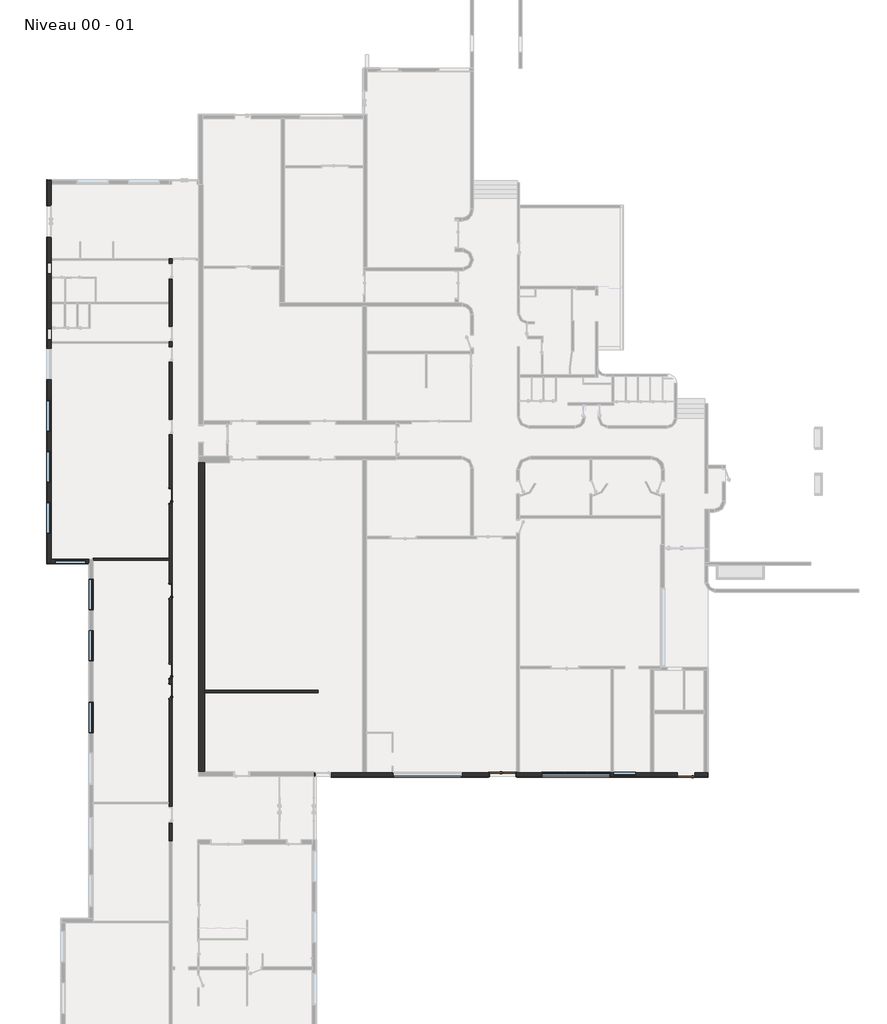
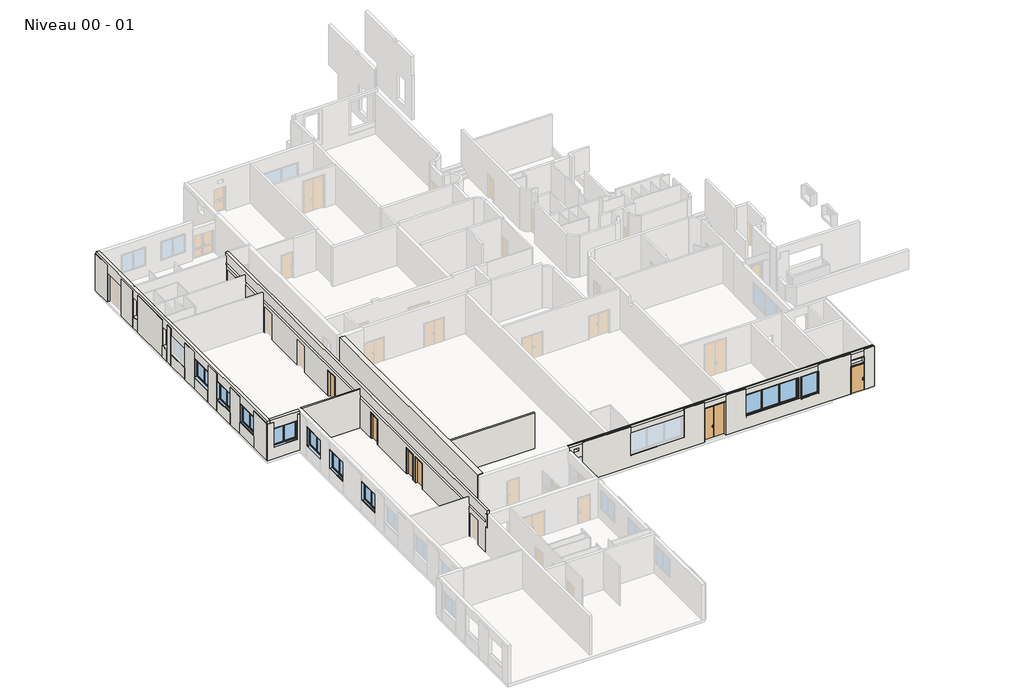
# One storey, part 3 of 8: 10 walls, 9 windows, 6 doors.
"""IFC4 building model written with IfcOpenShell, lengths in millimetres."""

from ifc_helpers import new_model, si_unit, frame, origin, place, context, project, spatial, polyline, outline, extrude, faceted_brep, transform, mapped, element, save
from components import door_6dd767ba, door_82d9676e, double_r_1_73m_x_2_9m_3b49b8a3, window_1_9000_x_145cm_2e8b5485, window_190x440_032361bc, window_200_x_160_3bbd1c25, window_200_x_160_064ba838

model = new_model("IFC4")

# Units and contexts
model_context = context("Model", 3, world=origin())
ifc_project = project(units=[si_unit("LENGTHUNIT", "METRE", prefix="MILLI")], contexts=[model_context])

# Site, building, storey
site = spatial("IfcSite", under=ifc_project)
building = spatial("IfcBuilding", under=site)
storey = spatial("IfcBuildingStorey", under=building, Name="Niveau 00 - 01", Elevation=253.3082742)

# Doors
placement = place(None, origin())
door_shape = door_6dd767ba(model_context)
element("IfcDoor", 1, ObjectType="@_Int. Simple : @_PP (1.03m x 2.30m)", at=placement, inside=storey, context=model_context, shape_type="MappedRepresentation", body=[
    mapped(door_shape, transform((-5181.0863322, -34529.054307, 253.3082742), x_axis=(-1.0, 0.0, 0.0), y_axis=(0.0, -1.0, 0.0), z_axis=(0.0, 0.0, 1.0))),
])
door_2_shape = door_82d9676e(model_context)
element("IfcDoor", 2, ObjectType="@_Int. Simple : @_PP (0.93m x 2.25)", at=placement, inside=storey, context=model_context, shape_type="MappedRepresentation", body=[
    mapped(door_2_shape, transform((-38143.9891749, -16531.6974193, 253.3082742), x_axis=(0.0, 1.0, 0.0), y_axis=(-1.0, 0.0, 0.0), z_axis=(0.0, 0.0, 1.0))),
])
element("IfcDoor", 3, ObjectType="@_Int. Simple : @_PP (0.93m x 2.25)", at=placement, inside=storey, context=model_context, shape_type="MappedRepresentation", body=[
    mapped(door_2_shape, transform((-38143.9891749, -22631.6974193, 253.3082742), x_axis=(0.0, 1.0, 0.0), y_axis=(-1.0, 0.0, 0.0), z_axis=(0.0, 0.0, 1.0))),
])
element("IfcDoor", 4, ObjectType="@_Int. Simple : @_PP (0.93m x 2.25)", at=placement, inside=storey, context=model_context, shape_type="MappedRepresentation", body=[
    mapped(door_2_shape, transform((-38143.9891749, -29031.6974193, 253.3082742), x_axis=(0.0, 1.0, 0.0), y_axis=(-1.0, 0.0, 0.0), z_axis=(0.0, 0.0, 1.0))),
])
element("IfcDoor", 5, ObjectType="@_Int. Simple : @_PP (0.93m x 2.25)", at=placement, inside=storey, context=model_context, shape_type="MappedRepresentation", body=[
    mapped(door_2_shape, transform((-38143.9891749, -27731.6974193, 253.3082742), x_axis=(0.0, 1.0, 0.0), y_axis=(-1.0, 0.0, 0.0), z_axis=(0.0, 0.0, 1.0))),
])
double_r_1_73m_x_2_9m_shape = double_r_1_73m_x_2_9m_3b49b8a3(model_context)
element("IfcDoor", 6, ObjectType="Double (R) : 1.73m x 2.9m", at=placement, inside=storey, context=model_context, shape_type="MappedRepresentation", body=[
    mapped(double_r_1_73m_x_2_9m_shape, transform((-16892.6697002, -34384.054307, 253.3082742), x_axis=(-1.0, 0.0, 0.0), y_axis=(0.0, -1.0, 0.0), z_axis=(0.0, 0.0, 1.0))),
])

# Walls
element("IfcWall", 7, ObjectType="@_Générique - Int. 100 mm", at=placement, inside=storey, context=model_context, shape_type="Brep", body=[
    faceted_brep([(-43092.9002047, -20666.6974195, 253.3082742), (-38243.9891749, -20666.697421, 253.3082742), (-38243.9891749, -20666.697421, 3653.3082742), (-43092.9002047, -20666.6974195, 3653.3082742), (-43092.9002047, -20566.6974195, 253.3082742), (-43092.9002047, -20566.6974195, 3653.3082742), (-38243.9891749, -20566.697421, 3653.3082742), (-38243.9891749, -20566.697421, 253.3082742), (-43092.9002047, -20616.6974201, 253.3082742)], [[[0, 1, 2, 3]], [[4, 5, 6, 7]], [[1, 0, 8, 4, 7]], [[2, 1, 7, 6]], [[3, 2, 6, 5]], [[0, 3, 5, 4, 8]]]),
])
element("IfcWall", 8, ObjectType="@_Générique - Int. 150 mm", at=placement, inside=storey, context=model_context, shape_type="SweptSolid", body=[
    extrude(outline(polyline([(-28702.0667169, -29150.292702), (-35943.9891739, -29150.292702), (-35943.9891739, -29000.292702), (-28702.0667169, -29000.292702), (-28702.0667169, -29150.292702)])), frame((0.0, 0.0, 253.3082742), z_axis=(0.0, 0.0, 1.0), x_axis=(1.0, 0.0, 0.0)), (0.0, 0.0, 1.0), 3100.0),
])
element("IfcWall", 9, ObjectType="Mur EXE 40- Hach", at=placement, inside=storey, context=model_context, shape_type="Brep", body=[
    faceted_brep([(-46079.2374821, -18954.6974201, 1224.3082742), (-46079.2374821, -16970.5552845, 1224.3082742), (-46079.2374821, -16970.5552845, 253.3082742), (-46079.2374821, -18954.6974201, 253.3082742), (-46039.2374821, -18954.6974201, 1224.3082742), (-46039.2374821, -18954.6974201, 253.3082742), (-46039.2374821, -16970.5552845, 253.3082742), (-46039.2374821, -16970.5552845, 1224.3082742)], [[[0, 1, 2, 3]], [[4, 5, 6, 7]], [[1, 0, 4, 7]], [[2, 1, 7, 6]], [[3, 2, 6, 5]], [[0, 3, 5, 4]]]),
    faceted_brep([(-46079.2374821, -18969.6974201, 3465.1810381), (-46079.2374821, -18969.6974201, 1224.3082742), (-46079.2374821, -18969.6974201, 253.3082742), (-46079.2374821, -20866.6974201, 253.3082742), (-46079.2374821, -20866.6974201, 3421.8727639), (-46079.2374821, -20866.6974201, 3465.1810381), (-46039.2374821, -18969.6974201, 3465.1810381), (-46039.2374821, -20866.6974201, 3465.1810381), (-46039.2374821, -20866.6974201, 253.3082742), (-46039.2374821, -18969.6974201, 253.3082742), (-46039.2374821, -18969.6974201, 1224.3082742)], [[[0, 1, 2, 3, 4, 5]], [[6, 7, 8, 9, 10]], [[1, 0, 6, 10]], [[3, 2, 9, 8]], [[2, 1, 10, 9]], [[0, 5, 7, 6]], [[5, 4, 3, 8, 7]]]),
    faceted_brep([(-46079.2374821, -16955.5552845, 1224.3082742), (-46079.2374821, -16955.5552845, 3465.1810381), (-46079.2374821, -15648.3863777, 3465.1810381), (-46079.2374821, -15648.3863777, 1224.3082742), (-46079.2374821, -15648.3863777, 253.3082742), (-46079.2374821, -16955.5552845, 253.3082742), (-46039.2374821, -16955.5552845, 1224.3082742), (-46039.2374821, -16955.5552845, 253.3082742), (-46039.2374821, -15648.3863777, 253.3082742), (-46039.2374821, -15648.3863777, 1224.3082742), (-46039.2374821, -15648.3863777, 3465.1810381), (-46039.2374821, -16955.5552845, 3465.1810381)], [[[0, 1, 2, 3, 4, 5]], [[6, 7, 8, 9, 10, 11]], [[3, 2, 10, 9]], [[1, 0, 6, 11]], [[5, 4, 8, 7]], [[2, 1, 11, 10]], [[0, 5, 7, 6]], [[4, 3, 9, 8]]]),
    faceted_brep([(-46079.2374821, -9134.7253897, 3421.8727639), (-46079.2374821, -9134.7253897, 1224.3082742), (-46079.2374821, -9134.7253897, 253.3082742), (-46079.2374821, -10433.745471, 253.3082742), (-46079.2374821, -10433.745471, 1224.3082742), (-46079.2374821, -10433.745471, 3421.8727639), (-46039.2374821, -9134.7253897, 3421.8727639), (-46039.2374821, -10433.745471, 3421.8727639), (-46039.2374821, -10433.745471, 1224.3082742), (-46039.2374821, -10433.745471, 253.3082742), (-46039.2374821, -9134.7253897, 253.3082742), (-46039.2374821, -9134.7253897, 1224.3082742)], [[[0, 1, 2, 3, 4, 5]], [[6, 7, 8, 9, 10, 11]], [[1, 0, 6, 11]], [[3, 2, 10, 9]], [[0, 5, 7, 6]], [[5, 4, 8, 7]], [[4, 3, 9, 8]], [[2, 1, 11, 10]]]),
    faceted_brep([(-46079.2374821, -13693.7253897, 1224.3082742), (-46079.2374821, -13693.7253897, 3465.1810381), (-46079.2374821, -12449.7253897, 3465.1810381), (-46079.2374821, -12449.7253897, 1224.3082742), (-46079.2374821, -12449.7253897, 253.3082742), (-46079.2374821, -13693.7253897, 253.3082742), (-46039.2374821, -13693.7253897, 1224.3082742), (-46039.2374821, -13693.7253897, 253.3082742), (-46039.2374821, -12449.7253897, 253.3082742), (-46039.2374821, -12449.7253897, 1224.3082742), (-46039.2374821, -12449.7253897, 3465.1810381), (-46039.2374821, -13693.7253897, 3465.1810381)], [[[0, 1, 2, 3, 4, 5]], [[6, 7, 8, 9, 10, 11]], [[4, 3, 9, 8]], [[1, 0, 6, 11]], [[0, 5, 7, 6]], [[3, 2, 10, 9]], [[2, 1, 11, 10]], [[5, 4, 8, 7]]]),
    faceted_brep([(-46079.2374821, -15633.3863777, 1224.3082742), (-46079.2374821, -13708.7253897, 1224.3082742), (-46079.2374821, -13708.7253897, 253.3082742), (-46079.2374821, -15633.3863777, 253.3082742), (-46039.2374821, -15633.3863777, 1224.3082742), (-46039.2374821, -15633.3863777, 253.3082742), (-46039.2374821, -13708.7253897, 253.3082742), (-46039.2374821, -13708.7253897, 1224.3082742)], [[[0, 1, 2, 3]], [[4, 5, 6, 7]], [[2, 1, 7, 6]], [[1, 0, 4, 7]], [[3, 2, 6, 5]], [[0, 3, 5, 4]]]),
    faceted_brep([(-46079.2374821, -12434.1203008, 1224.3082742), (-46079.2374821, -10449.9982464, 1224.3082742), (-46079.2374821, -10449.9982464, 253.3082742), (-46079.2374821, -12434.1203008, 253.3082742), (-46039.2374821, -12434.1203008, 1224.3082742), (-46039.2374821, -12434.1203008, 253.3082742), (-46039.2374821, -10449.9982464, 253.3082742), (-46039.2374821, -10449.9982464, 1224.3082742)], [[[0, 1, 2, 3]], [[4, 5, 6, 7]], [[0, 3, 5, 4]], [[1, 0, 4, 7]], [[2, 1, 7, 6]], [[3, 2, 6, 5]]]),
    faceted_brep([(-46079.2374821, -9119.1203008, 1224.3082742), (-46079.2374821, -7134.9982464, 1224.3082742), (-46079.2374821, -7134.9982464, 253.3082742), (-46079.2374821, -9119.1203008, 253.3082742), (-46039.2374821, -9119.1203008, 1224.3082742), (-46039.2374821, -9119.1203008, 253.3082742), (-46039.2374821, -7134.9982464, 253.3082742), (-46039.2374821, -7134.9982464, 1224.3082742)], [[[0, 1, 2, 3]], [[4, 5, 6, 7]], [[1, 0, 4, 7]], [[2, 1, 7, 6]], [[3, 2, 6, 5]], [[0, 3, 5, 4]]]),
    faceted_brep([(-46079.2374821, -7118.745471, 1224.3082742), (-46079.2374821, -7118.745471, 3467.1810381), (-46079.2374821, -6580.1579297, 3467.1810381), (-46079.2374821, -6580.1579297, 1226.3082742), (-46079.2374821, -6580.1579297, 253.3082742), (-46079.2374821, -7118.745471, 253.3082742), (-46039.2374821, -7118.745471, 1224.3082742), (-46039.2374821, -7118.745471, 253.3082742), (-46039.2374821, -6580.1579297, 253.3082742), (-46039.2374821, -6580.1579297, 1226.3082742), (-46039.2374821, -6580.1579297, 3467.1810381), (-46039.2374821, -7118.745471, 3467.1810381)], [[[0, 1, 2, 3, 4, 5]], [[6, 7, 8, 9, 10, 11]], [[1, 0, 6, 11]], [[2, 1, 11, 10]], [[3, 2, 10, 9]], [[4, 3, 9, 8]], [[5, 4, 8, 7]], [[0, 5, 7, 6]]]),
    faceted_brep([(-46079.2374821, -6564.5528407, 1226.3082742), (-46079.2374821, -5896.3682864, 1226.3082742), (-46079.2374821, -5896.3682864, 255.3082742), (-46079.2374821, -6564.5528407, 255.3082742), (-46039.2374821, -6564.5528407, 1226.3082742), (-46039.2374821, -6564.5528407, 255.3082742), (-46039.2374821, -5896.3682864, 255.3082742), (-46039.2374821, -5896.3682864, 1226.3082742)], [[[0, 1, 2, 3]], [[4, 5, 6, 7]], [[1, 0, 4, 7]], [[2, 1, 7, 6]], [[3, 2, 6, 5]], [[0, 3, 5, 4]]]),
    faceted_brep([(-46079.2374821, -5880.115511, 1226.3082742), (-46079.2374821, -5880.115511, 3467.1810381), (-46079.2374821, -2363.5592197, 3467.1810381), (-46079.2374821, -2363.5592197, 1226.3082742), (-46079.2374821, -2363.5592197, 253.3082742), (-46079.2374821, -5880.115511, 253.3082742), (-46039.2374821, -5880.115511, 1226.3082742), (-46039.2374821, -5880.115511, 253.3082742), (-46039.2374821, -2363.5592197, 253.3082742), (-46039.2374821, -2363.5592197, 1226.3082742), (-46039.2374821, -2363.5592197, 3467.1810381), (-46039.2374821, -5880.115511, 3467.1810381)], [[[0, 1, 2, 3, 4, 5]], [[6, 7, 8, 9, 10, 11]], [[1, 0, 6, 11]], [[2, 1, 11, 10]], [[3, 2, 10, 9]], [[4, 3, 9, 8]], [[5, 4, 8, 7]], [[0, 5, 7, 6]]]),
    faceted_brep([(-46079.2374821, -2347.9541307, 1226.3082742), (-46079.2374821, -1679.7695763, 1226.3082742), (-46079.2374821, -1679.7695763, 255.3082742), (-46079.2374821, -2347.9541307, 255.3082742), (-46039.2374821, -2347.9541307, 1226.3082742), (-46039.2374821, -2347.9541307, 255.3082742), (-46039.2374821, -1679.7695763, 255.3082742), (-46039.2374821, -1679.7695763, 1226.3082742)], [[[0, 1, 2, 3]], [[4, 5, 6, 7]], [[1, 0, 4, 7]], [[2, 1, 7, 6]], [[3, 2, 6, 5]], [[0, 3, 5, 4]]]),
    faceted_brep([(-46079.2374821, -1663.5168009, 1226.3082742), (-46079.2374821, -1663.5168009, 3467.1810381), (-46079.2374821, -8.1777475, 3467.1810381), (-46079.2374821, -8.1777475, 256.6165485), (-46079.2374821, -1663.5168009, 256.6165485), (-46039.2374821, -1663.5168009, 1226.3082742), (-46039.2374821, -1663.5168009, 256.6165485), (-46039.2374821, -8.1777475, 256.6165485), (-46039.2374821, -8.1777475, 3467.1810381), (-46039.2374821, -1663.5168009, 3467.1810381)], [[[0, 1, 2, 3, 4]], [[5, 6, 7, 8, 9]], [[1, 0, 5, 9]], [[2, 1, 9, 8]], [[3, 2, 8, 7]], [[4, 3, 7, 6]], [[0, 4, 6, 5]]]),
    faceted_brep([(-46079.2374821, 2011.8222525, 3467.1810381), (-46079.2374821, 3674.6445068, 3467.1810381), (-46079.2374821, 3674.6445068, 256.6165485), (-46079.2374821, 2011.8222525, 256.6165485), (-46039.2374821, 2011.8222525, 3467.1810381), (-46039.2374821, 2011.8222525, 256.6165485), (-46039.2374821, 3674.6445068, 256.6165485), (-46039.2374821, 3674.6445068, 3421.8727639), (-46039.2374821, 3674.6445068, 3467.1810381)], [[[0, 1, 2, 3]], [[4, 5, 6, 7, 8]], [[1, 0, 4, 8]], [[2, 1, 8, 7, 6]], [[3, 2, 6, 5]], [[0, 3, 5, 4]]]),
])
element("IfcWall", 10, ObjectType="Mur EXE 40- Hach", at=placement, inside=storey, context=model_context, shape_type="Brep", body=[
    faceted_brep([(-46079.2374821, -20906.6974201, 253.3082742), (-43382.9002047, -20906.6974201, 253.3082742), (-43382.9002047, -20906.6974201, 3421.8727639), (-43533.0688434, -20906.6974201, 3421.8727639), (-43533.0688434, -20906.6974201, 1225.8082742), (-45541.0688434, -20906.6974201, 1225.8082742), (-45541.0688434, -20906.6974201, 3421.8727639), (-46079.2374821, -20906.6974201, 3421.8727639), (-46079.2374821, -20866.6974201, 253.3082742), (-46079.2374821, -20866.6974201, 3421.8727639), (-45541.0688434, -20866.6974201, 3421.8727639), (-45541.0688434, -20866.6974201, 2853.3082742), (-45541.0688434, -20866.6974201, 1233.3082742), (-45541.0688434, -20866.6974201, 1225.8082742), (-43533.0688434, -20866.6974201, 1225.8082742), (-43533.0688434, -20866.6974201, 3421.8727639), (-43382.9002047, -20866.6974201, 3421.8727639), (-43382.9002047, -20866.6974201, 253.3082742), (-45789.2374821, -20866.6974201, 253.3082742)], [[[0, 1, 2, 3, 4, 5, 6, 7]], [[8, 9, 10, 11, 12, 13, 14, 15, 16, 17, 18]], [[1, 0, 8, 18, 17]], [[3, 2, 16, 15]], [[0, 7, 9, 8]], [[2, 1, 17, 16]], [[4, 3, 15, 14]], [[5, 4, 14, 13]], [[6, 5, 13, 12, 11, 10]], [[7, 6, 10, 9]]]),
])
element("IfcWall", 11, ObjectType="Mur EXE 40- Hach", at=placement, inside=storey, context=model_context, shape_type="Brep", body=[
    faceted_brep([(-27858.0967808, -34509.054307, 3741.8727639), (-23892.938368, -34509.054307, 3741.8727639), (-23892.938368, -34509.054307, 1253.3082742), (-19481.8994428, -34509.054307, 1253.3082742), (-19481.8994428, -34509.054307, 3741.8727639), (-17802.6697002, -34509.054307, 3741.8727639), (-17802.6697002, -34509.054307, 253.3082742), (-27858.0967808, -34509.054307, 253.3082742), (-23892.938368, -34549.054307, 3741.8727639), (-27858.0967808, -34549.054307, 3741.8727639), (-27858.0967808, -34549.054307, 253.3082742), (-17802.6697002, -34549.054307, 253.3082742), (-17802.6697002, -34549.054307, 3741.8727639), (-19481.8994428, -34549.054307, 3741.8727639), (-19481.8994428, -34549.054307, 1253.3082742), (-23892.938368, -34549.054307, 1253.3082742)], [[[0, 1, 2, 3, 4, 5, 6, 7]], [[8, 9, 10, 11, 12, 13, 14, 15]], [[1, 0, 9, 8]], [[2, 1, 8, 15]], [[3, 2, 15, 14]], [[4, 3, 14, 13]], [[5, 4, 13, 12]], [[6, 5, 12, 11]], [[7, 6, 11, 10]], [[0, 7, 10, 9]]]),
    faceted_brep([(-5696.0863322, -34509.054307, 253.3082742), (-15982.6697002, -34509.054307, 253.3082742), (-15982.6697002, -34509.054307, 3741.8727639), (-14405.5797303, -34509.054307, 3741.8727639), (-14405.5797303, -34509.054307, 1313.3082742), (-9807.6696986, -34509.054307, 1313.3082742), (-9807.6696986, -34509.054307, 1253.3082742), (-8357.6696986, -34509.054307, 1253.3082742), (-8357.6696986, -34509.054307, 3153.3082742), (-8387.5797303, -34509.054307, 3153.3082742), (-8387.5797303, -34509.054307, 3741.8727639), (-5710.1558383, -34509.054307, 3741.8727639), (-5710.1558383, -34509.054307, 3143.5930273), (-4579.5863322, -34509.054307, 3143.5930273), (-4579.5863322, -34509.054307, 3741.8727639), (-3745.9483345, -34509.054307, 3741.8727639), (-3745.9483345, -34509.054307, 3653.3082742), (-3745.9483345, -34509.054307, 253.3082742), (-4596.0863322, -34509.054307, 253.3082742), (-4596.0863322, -34509.054307, 2588.3082742), (-5696.0863322, -34509.054307, 2588.3082742), (-4609.8710852, -34509.054307, 2613.3082742), (-4609.8710852, -34509.054307, 3113.3082742), (-5679.8710852, -34509.054307, 3113.3082742), (-5679.8710852, -34509.054307, 2613.3082742), (-15982.6697002, -34549.054307, 253.3082742), (-5696.0863322, -34549.054307, 253.3082742), (-5696.0863322, -34549.054307, 2588.3082742), (-4596.0863322, -34549.054307, 2588.3082742), (-4596.0863322, -34549.054307, 253.3082742), (-3745.9483345, -34549.054307, 253.3082742), (-3745.9483345, -34549.054307, 3741.8727639), (-4579.5863322, -34549.054307, 3741.8727639), (-4579.5863322, -34549.054307, 3143.5930273), (-5710.1558383, -34549.054307, 3143.5930273), (-5710.1558383, -34549.054307, 3741.8727639), (-8387.5797303, -34549.054307, 3741.8727639), (-8387.5797303, -34549.054307, 3153.3082742), (-8357.6696986, -34549.054307, 3153.3082742), (-8357.6696986, -34549.054307, 1253.3082742), (-9807.6696986, -34549.054307, 1253.3082742), (-9807.6696986, -34549.054307, 1313.3082742), (-14405.5797303, -34549.054307, 1313.3082742), (-14405.5797303, -34549.054307, 3741.8727639), (-15982.6697002, -34549.054307, 3741.8727639), (-4609.8710852, -34549.054307, 3113.3082742), (-4609.8710852, -34549.054307, 2613.3082742), (-5679.8710852, -34549.054307, 2613.3082742), (-5679.8710852, -34549.054307, 3113.3082742)], [[[0, 1, 2, 3, 4, 5, 6, 7, 8, 9, 10, 11, 12, 13, 14, 15, 16, 17, 18, 19, 20], [21, 22, 23, 24]], [[25, 26, 27, 28, 29, 30, 31, 32, 33, 34, 35, 36, 37, 38, 39, 40, 41, 42, 43, 44], [45, 46, 47, 48]], [[0, 20, 27, 26]], [[20, 19, 28, 27]], [[19, 18, 29, 28]], [[1, 0, 26, 25]], [[18, 17, 30, 29]], [[2, 1, 25, 44]], [[3, 2, 44, 43]], [[4, 3, 43, 42]], [[4, 42, 41, 5]], [[36, 10, 9, 37]], [[11, 10, 36, 35]], [[12, 11, 35, 34]], [[13, 12, 34, 33]], [[14, 13, 33, 32]], [[15, 14, 32, 31]], [[17, 16, 15, 31, 30]], [[45, 22, 21, 46]], [[46, 21, 24, 47]], [[47, 24, 23, 48]], [[22, 45, 48, 23]], [[40, 6, 5, 41]], [[8, 38, 37, 9]], [[38, 8, 7, 39]], [[39, 7, 6, 40]]]),
])
element("IfcWall", 12, ObjectType="Ext. Voile BA 200", at=placement, inside=storey, context=model_context, shape_type="Brep", body=[
    faceted_brep([(-38243.9891749, -38759.0543071, 3953.3082742), (-38243.9891749, -1381.0175877, 3953.3082742), (-38243.9891749, -1381.0175877, 3653.3082742), (-38243.9891749, -1381.0175877, 253.3082742), (-38243.9891749, -1481.0175877, 253.3082742), (-38243.9891749, -1693.5, 253.3082742), (-38243.9891749, -1693.5, 2518.3082742), (-38243.9891749, -2693.5, 2518.3082742), (-38243.9891749, -2693.5, 253.3082742), (-38243.9891749, -4164.822974, 253.3082742), (-38243.9891749, -4264.822974, 253.3082742), (-38243.9891749, -5708.5, 253.3082742), (-38243.9891749, -5708.5, 2518.3082742), (-38243.9891749, -6708.5, 2518.3082742), (-38243.9891749, -6708.5, 253.3082742), (-38243.9891749, -6711.0175876, 253.3082742), (-38243.9891749, -6811.0175876, 253.3082742), (-38243.9891749, -7008.5, 253.3082742), (-38243.9891749, -7008.5, 2518.3082742), (-38243.9891749, -8008.5, 2518.3082742), (-38243.9891749, -8008.5, 253.3082742), (-38243.9891749, -11666.6974193, 253.3082742), (-38243.9891749, -11666.6974193, 2518.3082742), (-38243.9891749, -12666.6974193, 2518.3082742), (-38243.9891749, -12666.6974193, 253.3082742), (-38243.9891749, -16066.6974193, 253.3082742), (-38243.9891749, -16066.6974193, 2518.3082742), (-38243.9891749, -17066.6974193, 2518.3082742), (-38243.9891749, -17066.6974193, 253.3082742), (-38243.9891749, -20566.697421, 253.3082742), (-38243.9891749, -20666.697421, 253.3082742), (-38243.9891749, -22166.6974193, 253.3082742), (-38243.9891749, -22166.6974193, 2518.3082742), (-38243.9891749, -23166.6974193, 2518.3082742), (-38243.9891749, -23166.6974193, 253.3082742), (-38243.9891749, -27266.6974193, 253.3082742), (-38243.9891749, -27266.6974193, 2518.3082742), (-38243.9891749, -28266.6974193, 2518.3082742), (-38243.9891749, -28266.6974193, 253.3082742), (-38243.9891749, -28566.6974193, 253.3082742), (-38243.9891749, -28566.6974193, 2518.3082742), (-38243.9891749, -29566.6974193, 2518.3082742), (-38243.9891749, -29566.6974193, 253.3082742), (-38243.9891749, -36164.8269593, 253.3082742), (-38243.9891749, -36264.8269593, 253.3082742), (-38243.9891749, -36459.0543071, 253.3082742), (-38243.9891749, -36459.0543071, 2328.3082742), (-38243.9891749, -37459.0543071, 2328.3082742), (-38243.9891749, -37459.0543071, 253.3082742), (-38243.9891749, -38709.0543071, 253.3082742), (-38243.9891749, -38709.0543071, 2500.0), (-38243.9891749, -38859.0543071, 2500.0), (-38243.9891749, -38859.0543071, 3651.8727639), (-38243.9891749, -38709.0543071, 3651.8727639), (-38243.9891749, -38709.0543071, 3653.3082742), (-38243.9891749, -38759.0543071, 3653.3082742), (-38243.9891749, -38559.0543071, 2873.1823822), (-38243.9891749, -1481.0175877, 2873.1823822), (-38243.9891749, -1481.0175877, 3073.4568514), (-38243.9891749, -38559.0543071, 3073.4568514), (-38043.9891749, -1381.0175877, 3953.3082742), (-38043.9891749, -1481.0175877, 3953.3082742), (-38043.9891749, -38559.0543071, 3953.3082742), (-38043.9891749, -38759.0543071, 3953.3082742), (-38043.9891749, -38759.0543071, 3653.3082742), (-38043.9891749, -38709.0543071, 3653.3082742), (-38043.9891749, -38709.0543071, 3651.8727639), (-38043.9891749, -38859.0543071, 3651.8727639), (-38043.9891749, -38859.0543071, 2500.0), (-38043.9891749, -38709.0543071, 2500.0), (-38043.9891749, -38709.0543071, 253.3082742), (-38043.9891749, -37459.0543071, 253.3082742), (-38043.9891749, -37459.0543071, 2328.3082742), (-38043.9891749, -36459.0543071, 2328.3082742), (-38043.9891749, -36459.0543071, 253.3082742), (-38043.9891749, -29566.6974193, 253.3082742), (-38043.9891749, -29566.6974193, 2518.3082742), (-38043.9891749, -28566.6974193, 2518.3082742), (-38043.9891749, -28566.6974193, 253.3082742), (-38043.9891749, -28266.6974193, 253.3082742), (-38043.9891749, -28266.6974193, 2518.3082742), (-38043.9891749, -27266.6974193, 2518.3082742), (-38043.9891749, -27266.6974193, 253.3082742), (-38043.9891749, -23166.6974193, 253.3082742), (-38043.9891749, -23166.6974193, 2518.3082742), (-38043.9891749, -22166.6974193, 2518.3082742), (-38043.9891749, -22166.6974193, 253.3082742), (-38043.9891749, -17066.6974193, 253.3082742), (-38043.9891749, -17066.6974193, 2518.3082742), (-38043.9891749, -16066.6974193, 2518.3082742), (-38043.9891749, -16066.6974193, 253.3082742), (-38043.9891749, -12666.6974193, 253.3082742), (-38043.9891749, -12666.6974193, 2518.3082742), (-38043.9891749, -11666.6974193, 2518.3082742), (-38043.9891749, -11666.6974193, 253.3082742), (-38043.9891749, -8008.5, 253.3082742), (-38043.9891749, -8008.5, 2518.3082742), (-38043.9891749, -7008.5, 2518.3082742), (-38043.9891749, -7008.5, 253.3082742), (-38043.9891749, -6708.5, 253.3082742), (-38043.9891749, -6708.5, 2518.3082742), (-38043.9891749, -5708.5, 2518.3082742), (-38043.9891749, -5708.5, 253.3082742), (-38043.9891749, -2693.5, 253.3082742), (-38043.9891749, -2693.5, 2518.3082742), (-38043.9891749, -1693.5, 2518.3082742), (-38043.9891749, -1693.5, 253.3082742), (-38043.9891749, -1481.0175877, 253.3082742), (-38043.9891749, -1381.0175877, 253.3082742), (-38043.9891749, -1481.0175877, 2883.6639381), (-38043.9891749, -38559.0543071, 2883.6639381), (-38043.9891749, -38559.0543071, 3083.9384073), (-38043.9891749, -1481.0175877, 3083.9384073)], [[[0, 1, 2, 3, 4, 5, 6, 7, 8, 9, 10, 11, 12, 13, 14, 15, 16, 17, 18, 19, 20, 21, 22, 23, 24, 25, 26, 27, 28, 29, 30, 31, 32, 33, 34, 35, 36, 37, 38, 39, 40, 41, 42, 43, 44, 45, 46, 47, 48, 49, 50, 51, 52, 53, 54, 55], [56, 57, 58, 59]], [[60, 61, 62, 63, 64, 65, 66, 67, 68, 69, 70, 71, 72, 73, 74, 75, 76, 77, 78, 79, 80, 81, 82, 83, 84, 85, 86, 87, 88, 89, 90, 91, 92, 93, 94, 95, 96, 97, 98, 99, 100, 101, 102, 103, 104, 105, 106, 107, 108], [109, 110, 111, 112]], [[70, 49, 48, 71]], [[90, 25, 24, 91]], [[28, 87, 86, 31, 30, 29]], [[94, 21, 20, 95]], [[98, 17, 16, 15, 14, 99]], [[102, 11, 10, 9, 8, 103]], [[5, 4, 3, 108, 107, 106]], [[34, 83, 82, 35]], [[78, 39, 38, 79]], [[42, 75, 74, 45, 44, 43]], [[1, 0, 63, 62, 61, 60]], [[49, 70, 69, 50]], [[51, 50, 69, 68]], [[66, 53, 52, 67]], [[56, 110, 109, 57]], [[58, 112, 111, 59]], [[110, 56, 59, 111]], [[53, 66, 65, 54]], [[55, 54, 65, 64]], [[51, 68, 67, 52]], [[63, 0, 55, 64]], [[89, 26, 25, 90]], [[26, 89, 88, 27]], [[27, 88, 87, 28]], [[93, 22, 21, 94]], [[22, 93, 92, 23]], [[23, 92, 91, 24]], [[97, 18, 17, 98]], [[18, 97, 96, 19]], [[19, 96, 95, 20]], [[101, 12, 11, 102]], [[12, 101, 100, 13]], [[13, 100, 99, 14]], [[105, 6, 5, 106]], [[6, 105, 104, 7]], [[7, 104, 103, 8]], [[85, 32, 31, 86]], [[32, 85, 84, 33]], [[33, 84, 83, 34]], [[77, 40, 39, 78]], [[40, 77, 76, 41]], [[41, 76, 75, 42]], [[81, 36, 35, 82]], [[36, 81, 80, 37]], [[37, 80, 79, 38]], [[73, 46, 45, 74]], [[46, 73, 72, 47]], [[47, 72, 71, 48]], [[57, 109, 112, 58]], [[3, 2, 1, 60, 108]]]),
])
element("IfcWall", 13, ObjectType="Ext. Voile BA 250", at=placement, inside=storey, context=model_context, shape_type="Brep", body=[
    faceted_brep([(-45789.2374821, 3634.6445068, 3651.8727639), (-45789.2374821, 3384.6445068, 3651.8727639), (-45789.2374821, -1381.0175877, 3651.8727639), (-45789.2374821, -1481.0175877, 3651.8727639), (-45789.2374821, -20616.6974201, 3651.8727639), (-45789.2374821, -20866.6974201, 3651.8727639), (-45789.2374821, -20866.6974201, 253.3082742), (-45789.2374821, -20616.6974201, 253.3082742), (-45789.2374821, -6811.0175876, 253.3082742), (-45789.2374821, -6711.0175876, 253.3082742), (-45789.2374821, -5837.305302, 253.3082742), (-45789.2374821, -5767.305302, 253.3082742), (-45789.2374821, -4264.8229741, 253.3082742), (-45789.2374821, -4164.8229741, 253.3082742), (-45789.2374821, -2633.201847, 253.3082742), (-45789.2374821, -2563.201847, 253.3082742), (-45789.2374821, -1481.0175877, 253.3082742), (-45789.2374821, -1381.0175877, 253.3082742), (-45789.2374821, -48.1777475, 253.3082742), (-45789.2374821, -48.1777475, 2803.3082742), (-45789.2374821, 2051.8222525, 2803.3082742), (-45789.2374821, 2051.8222525, 253.3082742), (-45789.2374821, 3384.6445068, 253.3082742), (-45789.2374821, 3634.6445068, 253.3082742), (-45789.2374821, -16961.6974201, 2853.3082742), (-45789.2374821, -16961.6974201, 1253.3082742), (-45789.2374821, -18961.6974201, 1253.3082742), (-45789.2374821, -18961.6974201, 2853.3082742), (-45789.2374821, -13701.6974201, 2853.3082742), (-45789.2374821, -13701.6974201, 1253.3082742), (-45789.2374821, -15701.6974201, 1253.3082742), (-45789.2374821, -15701.6974201, 2853.3082742), (-45789.2374821, -10441.6974201, 2853.3082742), (-45789.2374821, -10441.6974201, 1253.3082742), (-45789.2374821, -12441.6974201, 1253.3082742), (-45789.2374821, -12441.6974201, 2853.3082742), (-45789.2374821, -7126.6974201, 2853.3082742), (-45789.2374821, -7126.6974201, 1253.3082742), (-45789.2374821, -9126.6974201, 1253.3082742), (-45789.2374821, -9126.6974201, 2853.3082742), (-45789.2374821, -1663.5, 1210.0), (-45789.2374821, -2363.5, 1210.0), (-45789.2374821, -2363.5, 2810.0), (-45789.2374821, -1663.5, 2810.0), (-45789.2374821, -5880.0987101, 1210.0), (-45789.2374821, -6580.0987101, 1210.0), (-45789.2374821, -6580.0987101, 2810.0), (-45789.2374821, -5880.0987101, 2810.0), (-46039.2374821, -20866.6974201, 3651.8727639), (-46039.2374821, -20666.6974201, 3651.8727639), (-46039.2374821, 3634.6445068, 3651.8727639), (-46039.2374821, 3634.6445068, 253.3082742), (-46039.2374821, 2011.8222525, 253.3082742), (-46039.2374821, 2011.8222525, 2763.3082742), (-46039.2374821, -8.1777475, 2763.3082742), (-46039.2374821, -8.1777475, 253.3082742), (-46039.2374821, -20866.6974201, 253.3082742), (-46039.2374821, -16961.6974201, 1233.3082742), (-46039.2374821, -16961.6974201, 2853.3082742), (-46039.2374821, -18961.6974201, 2853.3082742), (-46039.2374821, -18961.6974201, 1233.3082742), (-46039.2374821, -13701.6974201, 1233.3082742), (-46039.2374821, -13701.6974201, 2853.3082742), (-46039.2374821, -15701.6974201, 2853.3082742), (-46039.2374821, -15701.6974201, 1233.3082742), (-46039.2374821, -10441.6974201, 1233.3082742), (-46039.2374821, -10441.6974201, 2853.3082742), (-46039.2374821, -12441.6974201, 2853.3082742), (-46039.2374821, -12441.6974201, 1233.3082742), (-46039.2374821, -7126.6974201, 1233.3082742), (-46039.2374821, -7126.6974201, 2853.3082742), (-46039.2374821, -9126.6974201, 2853.3082742), (-46039.2374821, -9126.6974201, 1233.3082742), (-46039.2374821, -1663.5, 1210.0), (-46039.2374821, -1663.5, 2810.0), (-46039.2374821, -2363.5, 2810.0), (-46039.2374821, -2363.5, 1210.0), (-46039.2374821, -5880.0987101, 1210.0), (-46039.2374821, -5880.0987101, 2810.0), (-46039.2374821, -6580.0987101, 2810.0), (-46039.2374821, -6580.0987101, 1210.0), (-45839.2374821, -8.1777475, 253.3082742), (-45839.2374821, -48.1777475, 253.3082742), (-45839.2374821, 2051.8222525, 253.3082742), (-45839.2374821, 2011.8222525, 253.3082742), (-45839.2374821, 3634.6445068, 3651.8727639), (-45999.2374821, -16961.6974201, 1233.3082742), (-45999.2374821, -16961.6974201, 1218.3082742), (-45819.2374821, -16961.6974201, 1218.3082742), (-45819.2374821, -16961.6974201, 1253.3082742), (-45819.2374821, -18961.6974201, 1253.3082742), (-45819.2374821, -18961.6974201, 1218.3082742), (-45999.2374821, -18961.6974201, 1218.3082742), (-45999.2374821, -18961.6974201, 1233.3082742), (-45999.2374821, -13701.6974201, 1233.3082742), (-45999.2374821, -13701.6974201, 1218.3082742), (-45819.2374821, -13701.6974201, 1218.3082742), (-45819.2374821, -13701.6974201, 1253.3082742), (-45819.2374821, -15701.6974201, 1253.3082742), (-45819.2374821, -15701.6974201, 1218.3082742), (-45999.2374821, -15701.6974201, 1218.3082742), (-45999.2374821, -15701.6974201, 1233.3082742), (-45999.2374821, -10441.6974201, 1233.3082742), (-45999.2374821, -10441.6974201, 1218.3082742), (-45819.2374821, -10441.6974201, 1218.3082742), (-45819.2374821, -10441.6974201, 1253.3082742), (-45819.2374821, -12441.6974201, 1253.3082742), (-45819.2374821, -12441.6974201, 1218.3082742), (-45999.2374821, -12441.6974201, 1218.3082742), (-45999.2374821, -12441.6974201, 1233.3082742), (-45999.2374821, -7126.6974201, 1233.3082742), (-45999.2374821, -7126.6974201, 1218.3082742), (-45819.2374821, -7126.6974201, 1218.3082742), (-45819.2374821, -7126.6974201, 1253.3082742), (-45819.2374821, -9126.6974201, 1253.3082742), (-45819.2374821, -9126.6974201, 1218.3082742), (-45999.2374821, -9126.6974201, 1218.3082742), (-45999.2374821, -9126.6974201, 1233.3082742), (-45839.2374821, 2011.8222525, 2763.3082742), (-45839.2374821, -8.1777475, 2763.3082742), (-45839.2374821, -48.1777475, 2803.3082742), (-45839.2374821, 2051.8222525, 2803.3082742)], [[[0, 1, 2, 3, 4, 5, 6, 7, 8, 9, 10, 11, 12, 13, 14, 15, 16, 17, 18, 19, 20, 21, 22, 23], [24, 25, 26, 27], [28, 29, 30, 31], [32, 33, 34, 35], [36, 37, 38, 39], [40, 41, 42, 43], [44, 45, 46, 47]], [[48, 49, 50, 51, 52, 53, 54, 55, 56], [57, 58, 59, 60], [61, 62, 63, 64], [65, 66, 67, 68], [69, 70, 71, 72], [73, 74, 75, 76], [77, 78, 79, 80]], [[6, 56, 55, 81, 82, 18, 17, 16, 15, 14, 13, 12, 11, 10, 9, 8, 7]], [[51, 23, 22, 21, 83, 84, 52]], [[5, 4, 3, 2, 1, 0, 85, 50, 49, 48]], [[6, 5, 48, 56]], [[0, 23, 51, 50, 85]], [[24, 58, 57, 86, 87, 88, 89, 25]], [[26, 90, 91, 92, 93, 60, 59, 27]], [[25, 89, 90, 26]], [[89, 88, 91, 90]], [[88, 87, 92, 91]], [[87, 86, 93, 92]], [[86, 57, 60, 93]], [[58, 24, 27, 59]], [[28, 62, 61, 94, 95, 96, 97, 29]], [[30, 98, 99, 100, 101, 64, 63, 31]], [[29, 97, 98, 30]], [[97, 96, 99, 98]], [[96, 95, 100, 99]], [[95, 94, 101, 100]], [[94, 61, 64, 101]], [[62, 28, 31, 63]], [[32, 66, 65, 102, 103, 104, 105, 33]], [[34, 106, 107, 108, 109, 68, 67, 35]], [[33, 105, 106, 34]], [[105, 104, 107, 106]], [[104, 103, 108, 107]], [[103, 102, 109, 108]], [[102, 65, 68, 109]], [[66, 32, 35, 67]], [[36, 70, 69, 110, 111, 112, 113, 37]], [[38, 114, 115, 116, 117, 72, 71, 39]], [[37, 113, 114, 38]], [[113, 112, 115, 114]], [[112, 111, 116, 115]], [[111, 110, 117, 116]], [[110, 69, 72, 117]], [[70, 36, 39, 71]], [[74, 73, 40, 43]], [[75, 74, 43, 42]], [[76, 75, 42, 41]], [[73, 76, 41, 40]], [[78, 77, 44, 47]], [[79, 78, 47, 46]], [[80, 79, 46, 45]], [[77, 80, 45, 44]], [[118, 119, 54, 53]], [[119, 81, 55, 54]], [[84, 118, 53, 52]], [[82, 120, 19, 18]], [[119, 118, 84, 83, 121, 120, 82, 81]], [[19, 120, 121, 20]], [[121, 83, 21, 20]]]),
])
element("IfcWall", 14, ObjectType="Ext. Voile BA 250", at=placement, inside=storey, context=model_context, shape_type="Brep", body=[
    faceted_brep([(-43342.9002047, -20616.6974201, 253.3082742), (-45789.2374821, -20616.6974201, 253.3082742), (-45789.2374821, -20616.6974201, 3651.8727639), (-43342.9002047, -20616.6974201, 3651.8727639), (-43541.0688434, -20616.6974201, 1253.3082742), (-43541.0688434, -20616.6974201, 2853.3082742), (-45541.0688434, -20616.6974201, 2853.3082742), (-45541.0688434, -20616.6974201, 1253.3082742), (-45789.2374821, -20866.6974201, 253.3082742), (-43382.9002047, -20866.6974201, 253.3082742), (-43342.9002047, -20866.6974201, 253.3082742), (-43342.9002047, -20866.6974201, 3651.8727639), (-45789.2374821, -20866.6974201, 3651.8727639), (-43541.0688434, -20866.6974201, 2853.3082742), (-43541.0688434, -20866.6974201, 1233.3082742), (-45541.0688434, -20866.6974201, 1233.3082742), (-45541.0688434, -20866.6974201, 2853.3082742), (-43342.9002047, -20666.6974201, 3651.8727639), (-43541.0688434, -20646.6974201, 1253.3082742), (-43541.0688434, -20646.6974201, 1218.3082742), (-43541.0688434, -20826.6974201, 1218.3082742), (-43541.0688434, -20826.6974201, 1233.3082742), (-45541.0688434, -20826.6974201, 1233.3082742), (-45541.0688434, -20826.6974201, 1218.3082742), (-45541.0688434, -20646.6974201, 1218.3082742), (-45541.0688434, -20646.6974201, 1253.3082742)], [[[0, 1, 2, 3], [4, 5, 6, 7]], [[8, 9, 10, 11, 12], [13, 14, 15, 16]], [[1, 0, 10, 9, 8]], [[3, 2, 12, 11, 17]], [[2, 1, 8, 12]], [[0, 3, 17, 11, 10]], [[4, 18, 19, 20, 21, 14, 13, 5]], [[6, 16, 15, 22, 23, 24, 25, 7]], [[18, 4, 7, 25]], [[19, 18, 25, 24]], [[20, 19, 24, 23]], [[21, 20, 23, 22]], [[14, 21, 22, 15]], [[5, 13, 16, 6]]]),
])
element("IfcWall", 15, ObjectType="Ext. Voile BA 250", at=placement, inside=storey, context=model_context, shape_type="Brep", body=[
    faceted_brep([(-28948.0967815, -34509.054307, 3653.3082742), (-28948.0967815, -34509.054307, 253.3082742), (-28873.0967808, -34509.054307, 253.3082742), (-28873.0967808, -34509.054307, 2518.3082742), (-27873.0967808, -34509.054307, 2518.3082742), (-27873.0967808, -34509.054307, 253.3082742), (-27858.0967808, -34509.054307, 253.3082742), (-17802.6697002, -34509.054307, 253.3082742), (-17792.6697002, -34509.054307, 253.3082742), (-17792.6697002, -34509.054307, 3188.3082742), (-15992.6697002, -34509.054307, 3188.3082742), (-15992.6697002, -34509.054307, 253.3082742), (-15982.6697002, -34509.054307, 253.3082742), (-5696.0863322, -34509.054307, 253.3082742), (-5696.0863322, -34509.054307, 2588.3082742), (-4596.0863322, -34509.054307, 2588.3082742), (-4596.0863322, -34509.054307, 253.3082742), (-3745.9483345, -34509.054307, 253.3082742), (-3745.9483345, -34509.054307, 3653.3082742), (-14397.5797303, -34509.054307, 1233.3082742), (-14397.5797303, -34509.054307, 3153.3082742), (-9997.5797303, -34509.054307, 3153.3082742), (-9997.5797303, -34509.054307, 1233.3082742), (-23883.9891725, -34509.054307, 1233.3082742), (-23883.9891725, -34509.054307, 3153.3082742), (-19483.9891725, -34509.054307, 3153.3082742), (-19483.9891725, -34509.054307, 1233.3082742), (-28187.8120278, -34509.054307, 3362.6019763), (-28187.8120278, -34509.054307, 3112.6019763), (-28537.8120278, -34509.054307, 3112.6019763), (-28537.8120278, -34509.054307, 3362.6019763), (-4609.8710852, -34509.054307, 3113.3082742), (-4609.8710852, -34509.054307, 2613.3082742), (-5679.8710852, -34509.054307, 2613.3082742), (-5679.8710852, -34509.054307, 3113.3082742), (-9807.6696986, -34509.054307, 1253.3082742), (-9807.6696986, -34509.054307, 1313.3082742), (-9807.6696986, -34509.054307, 3153.3082742), (-8387.5797303, -34509.054307, 3153.3082742), (-8357.6696986, -34509.054307, 3153.3082742), (-8357.6696986, -34509.054307, 1253.3082742), (-28948.0967815, -34259.054307, 3703.3082742), (-25843.9891728, -34259.054307, 3703.3082742), (-25593.9891728, -34259.054307, 3703.3082742), (-15997.6697002, -34259.054307, 3703.3082742), (-15797.6697002, -34259.054307, 3703.3082742), (-9957.6696986, -34259.054307, 3703.3082742), (-9807.6696986, -34259.054307, 3703.3082742), (-7415.9483335, -34259.054307, 3703.3082742), (-7215.9483335, -34259.054307, 3703.3082742), (-3952.669714, -34259.054307, 3703.3082742), (-3945.9483345, -34259.054307, 3703.3082742), (-3945.9483345, -34259.054307, 3701.8727639), (-3745.9483345, -34259.054307, 3701.8727639), (-3745.9483345, -34259.054307, 253.3082742), (-3995.9483345, -34259.054307, 253.3082742), (-4596.0863322, -34259.054307, 253.3082742), (-4596.0863322, -34259.054307, 2588.3082742), (-5696.0863322, -34259.054307, 2588.3082742), (-5696.0863322, -34259.054307, 253.3082742), (-7215.9483335, -34259.054307, 253.3082742), (-7415.9483335, -34259.054307, 253.3082742), (-9807.6696986, -34259.054307, 253.3082742), (-9957.6696986, -34259.054307, 253.3082742), (-15797.6697002, -34259.054307, 253.3082742), (-15992.6697002, -34259.054307, 253.3082742), (-15992.6697002, -34259.054307, 3188.3082742), (-17792.6697002, -34259.054307, 3188.3082742), (-17792.6697002, -34259.054307, 253.3082742), (-25593.9891728, -34259.054307, 253.3082742), (-25843.9891728, -34259.054307, 253.3082742), (-27873.0967808, -34259.054307, 253.3082742), (-27873.0967808, -34259.054307, 2518.3082742), (-28873.0967808, -34259.054307, 2518.3082742), (-28873.0967808, -34259.054307, 253.3082742), (-28948.0967815, -34259.054307, 253.3082742), (-14397.5797303, -34259.054307, 3153.3082742), (-14397.5797303, -34259.054307, 1253.3082742), (-9997.5797303, -34259.054307, 1253.3082742), (-9997.5797303, -34259.054307, 3153.3082742), (-23883.9891725, -34259.054307, 3153.3082742), (-23883.9891725, -34259.054307, 1253.3082742), (-19483.9891725, -34259.054307, 1253.3082742), (-19483.9891725, -34259.054307, 3153.3082742), (-28187.8120278, -34259.054307, 3112.6019763), (-28187.8120278, -34259.054307, 3362.6019763), (-28537.8120278, -34259.054307, 3362.6019763), (-28537.8120278, -34259.054307, 3112.6019763), (-4609.8710852, -34259.054307, 2613.3082742), (-4609.8710852, -34259.054307, 3113.3082742), (-5679.8710852, -34259.054307, 3113.3082742), (-5679.8710852, -34259.054307, 2613.3082742), (-9807.6696986, -34259.054307, 3153.3082742), (-9807.6696986, -34259.054307, 1253.3082742), (-8357.6696986, -34259.054307, 1253.3082742), (-8357.6696986, -34259.054307, 3153.3082742), (-28948.0967815, -34309.054307, 3653.3082742), (-28948.0967815, -34309.054307, 3703.3082742), (-3952.669714, -34309.054307, 3703.3082742), (-3945.9483345, -34309.054307, 3703.3082742), (-3745.9483345, -34309.054307, 3653.3082742), (-3745.9483345, -34309.054307, 3701.8727639), (-3945.9483345, -34309.054307, 3701.8727639), (-14397.5797303, -34469.054307, 1233.3082742), (-14397.5797303, -34469.054307, 1218.3082742), (-14397.5797303, -34289.054307, 1218.3082742), (-14397.5797303, -34289.054307, 1253.3082742), (-9997.5797303, -34289.054307, 1253.3082742), (-9997.5797303, -34289.054307, 1218.3082742), (-9997.5797303, -34469.054307, 1218.3082742), (-9997.5797303, -34469.054307, 1233.3082742), (-23883.9891725, -34469.054307, 1233.3082742), (-23883.9891725, -34469.054307, 1218.3082742), (-23883.9891725, -34289.054307, 1218.3082742), (-23883.9891725, -34289.054307, 1253.3082742), (-19483.9891725, -34289.054307, 1253.3082742), (-19483.9891725, -34289.054307, 1218.3082742), (-19483.9891725, -34469.054307, 1218.3082742), (-19483.9891725, -34469.054307, 1233.3082742)], [[[0, 1, 2, 3, 4, 5, 6, 7, 8, 9, 10, 11, 12, 13, 14, 15, 16, 17, 18], [19, 20, 21, 22], [23, 24, 25, 26], [27, 28, 29, 30], [31, 32, 33, 34], [35, 36, 37, 38, 39, 40]], [[41, 42, 43, 44, 45, 46, 47, 48, 49, 50, 51, 52, 53, 54, 55, 56, 57, 58, 59, 60, 61, 62, 63, 64, 65, 66, 67, 68, 69, 70, 71, 72, 73, 74, 75], [76, 77, 78, 79], [80, 81, 82, 83], [84, 85, 86, 87], [88, 89, 90, 91], [92, 93, 94, 95]], [[1, 75, 74, 2]], [[68, 8, 7, 6, 5, 71, 70, 69]], [[11, 65, 64, 63, 62, 61, 60, 59, 13, 12]], [[54, 17, 16, 56, 55]], [[75, 1, 0, 96, 97, 41]], [[50, 98, 99, 51]], [[50, 49, 48, 47, 46, 45, 44, 43, 42, 41, 97, 98]], [[98, 97, 96, 100, 101, 102, 99]], [[0, 18, 100, 96]], [[102, 52, 51, 99]], [[52, 102, 101, 53]], [[76, 20, 19, 103, 104, 105, 106, 77]], [[78, 107, 108, 109, 110, 22, 21, 79]], [[77, 106, 107, 78]], [[106, 105, 108, 107]], [[105, 104, 109, 108]], [[104, 103, 110, 109]], [[103, 19, 22, 110]], [[20, 76, 79, 21]], [[37, 36, 35, 93, 92]], [[39, 38, 37, 92, 95]], [[40, 39, 95, 94]], [[35, 40, 94, 93]], [[67, 9, 8, 68]], [[9, 67, 66, 10]], [[10, 66, 65, 11]], [[80, 24, 23, 111, 112, 113, 114, 81]], [[82, 115, 116, 117, 118, 26, 25, 83]], [[81, 114, 115, 82]], [[114, 113, 116, 115]], [[113, 112, 117, 116]], [[112, 111, 118, 117]], [[111, 23, 26, 118]], [[24, 80, 83, 25]], [[3, 2, 74, 73]], [[5, 4, 72, 71]], [[72, 4, 3, 73]], [[28, 27, 85, 84]], [[29, 28, 84, 87]], [[30, 29, 87, 86]], [[27, 30, 86, 85]], [[17, 54, 53, 101, 100, 18]], [[58, 14, 13, 59]], [[14, 58, 57, 15]], [[15, 57, 56, 16]], [[31, 89, 88, 32]], [[32, 88, 91, 33]], [[90, 34, 33, 91]], [[89, 31, 34, 90]]]),
])
element("IfcWall", 16, ObjectType="Ext. Voile BA 400", at=placement, inside=storey, context=model_context, shape_type="Brep", body=[
    faceted_brep([(-36343.9891743, -14429.1151361, 253.3082742), (-36343.9891738, -34209.0543071, 253.3082742), (-36343.9891738, -34209.0543071, 3653.3082742), (-36343.9891738, -34209.0543071, 3703.3082742), (-36343.9891743, -14429.1151361, 3703.3082742), (-36343.9891743, -14429.1151361, 3653.3082742), (-35943.9891743, -14429.1151361, 253.3082742), (-35943.9891743, -14429.1151361, 3703.3082742), (-35943.9891738, -34209.0543071, 3703.3082742), (-35943.9891738, -34209.0543071, 253.3082742), (-35943.9891739, -29150.292702, 253.3082742), (-35943.9891739, -29000.292702, 253.3082742), (-36143.9891745, -14429.1151361, 3703.3082742)], [[[0, 1, 2, 3, 4, 5]], [[6, 7, 8, 9, 10, 11]], [[1, 0, 6, 11, 10, 9]], [[4, 3, 8, 7, 12]], [[3, 2, 1, 9, 8]], [[0, 5, 4, 12, 7, 6]]]),
])

# Windows
window_1_9000_x_145cm_shape = window_1_9000_x_145cm_2e8b5485(model_context)
element("IfcWindow", 17, ObjectType="Fenêtre type 1 : 1.9000 x 145cm", at=placement, inside=storey, context=model_context, shape_type="MappedRepresentation", body=[
    mapped(window_1_9000_x_145cm_shape, transform((-9082.6696986, -34384.054307, 453.3082742), x_axis=(1.0, 0.0, 0.0), y_axis=(0.0, 1.0, 0.0), z_axis=(0.0, 0.0, 1.0))),
])
window_190x440_shape = window_190x440_032361bc(model_context)
element("IfcWindow", 18, ObjectType="3 Vantaux : 190x440", at=placement, inside=storey, context=model_context, shape_type="MappedRepresentation", body=[
    mapped(window_190x440_shape, transform((-12197.5797303, -34384.054307, 453.3082742), x_axis=(-1.0, 0.0, 0.0), y_axis=(0.0, -1.0, 0.0), z_axis=(0.0, 0.0, 1.0))),
])
window_200_x_160_shape = window_200_x_160_3bbd1c25(model_context)
element("IfcWindow", 19, ObjectType="2 Vantaux : 200 x 160", at=placement, inside=storey, context=model_context, shape_type="MappedRepresentation", body=[
    mapped(window_200_x_160_shape, transform((-43217.9002047, -30731.5543071, 453.3082742), x_axis=(0.0, -1.0, 0.0), y_axis=(1.0, 0.0, 0.0), z_axis=(0.0, 0.0, 1.0))),
])
element("IfcWindow", 20, ObjectType="2 Vantaux : 200 x 160", at=placement, inside=storey, context=model_context, shape_type="MappedRepresentation", body=[
    mapped(window_200_x_160_shape, transform((-43217.9002047, -26144.0543071, 453.3082742), x_axis=(0.0, -1.0, 0.0), y_axis=(1.0, 0.0, 0.0), z_axis=(0.0, 0.0, 1.0))),
])
element("IfcWindow", 21, ObjectType="2 Vantaux : 200 x 160", at=placement, inside=storey, context=model_context, shape_type="MappedRepresentation", body=[
    mapped(window_200_x_160_shape, transform((-43217.9002047, -22877.8758636, 453.3082742), x_axis=(0.0, -1.0, 0.0), y_axis=(1.0, 0.0, 0.0), z_axis=(0.0, 0.0, 1.0))),
])
element("IfcWindow", 22, ObjectType="2 Vantaux : 200 x 160", at=placement, inside=storey, context=model_context, shape_type="MappedRepresentation", body=[
    mapped(window_200_x_160_shape, transform((-44541.0688434, -20741.6974201, 453.3082742), x_axis=(1.0, 0.0, 0.0), y_axis=(0.0, 1.0, 0.0), z_axis=(0.0, 0.0, 1.0))),
])
window_200_x_160_2_shape = window_200_x_160_064ba838(model_context)
element("IfcWindow", 23, ObjectType="2 Vantaux : 200 x 160", at=placement, inside=storey, context=model_context, shape_type="MappedRepresentation", body=[
    mapped(window_200_x_160_2_shape, transform((-45914.2374821, -17961.6974201, 453.3082742), x_axis=(0.0, 1.0, 0.0), y_axis=(-1.0, 0.0, 0.0), z_axis=(0.0, 0.0, 1.0))),
])
element("IfcWindow", 24, ObjectType="2 Vantaux : 200 x 160", at=placement, inside=storey, context=model_context, shape_type="MappedRepresentation", body=[
    mapped(window_200_x_160_2_shape, transform((-45914.2374821, -14701.6974201, 453.3082742), x_axis=(0.0, 1.0, 0.0), y_axis=(-1.0, 0.0, 0.0), z_axis=(0.0, 0.0, 1.0))),
])
element("IfcWindow", 25, ObjectType="2 Vantaux : 200 x 160", at=placement, inside=storey, context=model_context, shape_type="MappedRepresentation", body=[
    mapped(window_200_x_160_2_shape, transform((-45914.2374821, -11441.6974201, 453.3082742), x_axis=(0.0, 1.0, 0.0), y_axis=(-1.0, 0.0, 0.0), z_axis=(0.0, 0.0, 1.0))),
])

save(model, "model.ifc")
